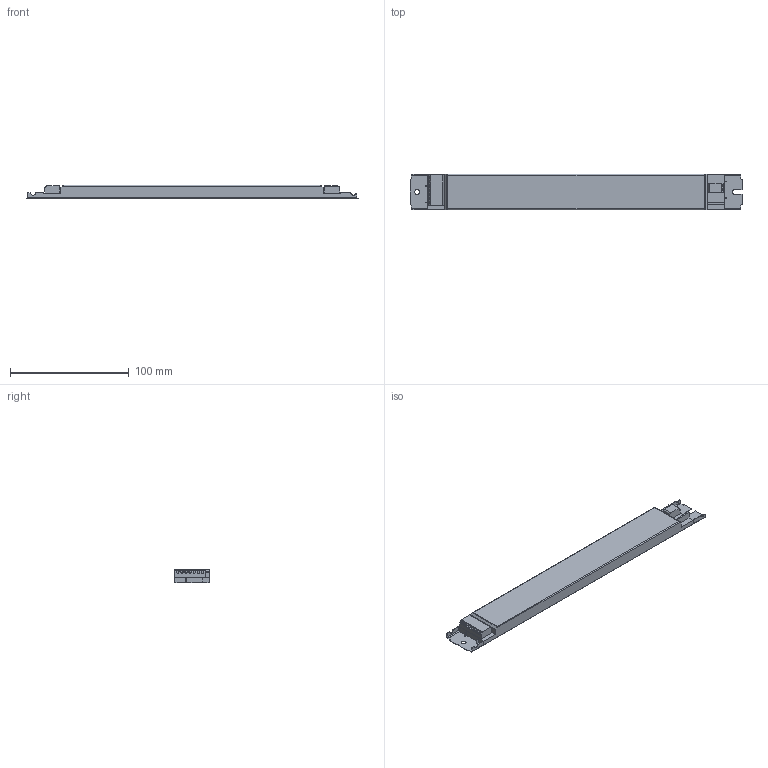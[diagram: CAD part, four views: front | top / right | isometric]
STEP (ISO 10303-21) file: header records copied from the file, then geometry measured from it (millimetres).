
FILE_DESCRIPTION((''),'2;1');
FILE_NAME('15013400Z_DATAHYP280X30X11-4ANT','2019-11-12T16:47:52',('juergen.hrach'),(''),'CREO PARAMETRIC BY PTC INC, 2019164','CREO PARAMETRIC BY PTC INC, 2019164','');
FILE_SCHEMA(('CONFIG_CONTROL_DESIGN'));
Length unit declared in the file: millimetre
Products named in the file (1): 15013400Z_DATAHYP280X30X11-4ANT
Bounding box: 280 x 30 x 11.4 mm (x, y, z)
Volume: 82484.3 mm3; surface area: 23658 mm2
Topology: 1 solids, 1 shells, 178 faces, 516 edges, 344 vertices
Faces by surface type: plane 95, cylinder 83
Entity records: 6101 total; most frequent: CARTESIAN_POINT 1331, ORIENTED_EDGE 1032, DIRECTION 951, EDGE_CURVE 516, VERTEX_POINT 344, VECTOR 331, LINE 331, AXIS2_PLACEMENT_3D 310
